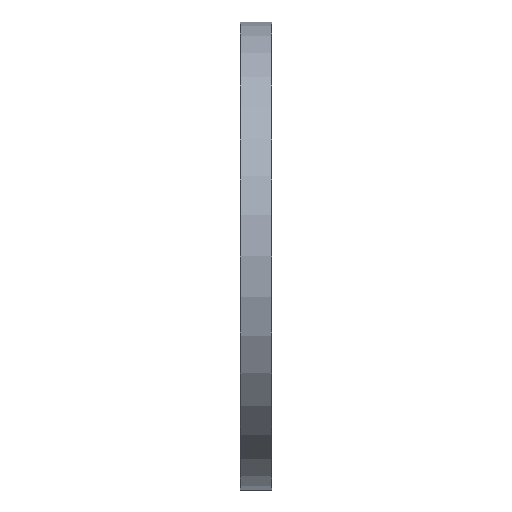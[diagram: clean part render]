
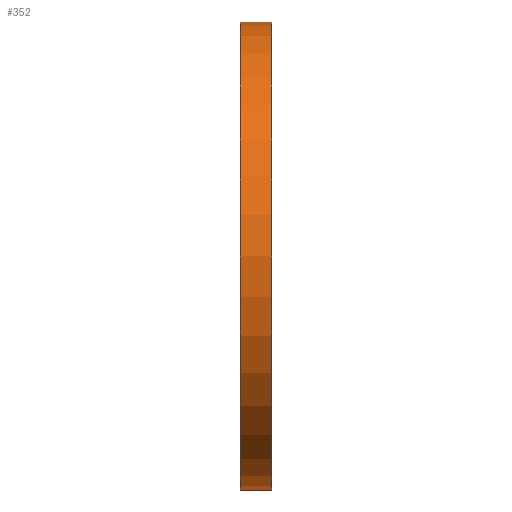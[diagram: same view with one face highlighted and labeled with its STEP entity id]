
A CAD part, left-side view. The second image highlights one B-rep face of the part: STEP entity #352.
In plain terms, the highlighted cylindrical face has radius 22 mm (diameter 44 mm), a partial arc.
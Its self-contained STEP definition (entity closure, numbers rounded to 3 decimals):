
#8 = DIRECTION ( 'NONE',  ( 0., 0., -1. ) ) ;
#15 = DIRECTION ( 'NONE',  ( 0., 0., -1. ) ) ;
#51 = DIRECTION ( 'NONE',  ( 0., 0., -1. ) ) ;
#99 = CYLINDRICAL_SURFACE ( 'NONE', #1307, 22. ) ;
#163 = CARTESIAN_POINT ( 'NONE',  ( 0., 0., -22. ) ) ;
#172 = DIRECTION ( 'NONE',  ( 0., -1., 0. ) ) ;
#296 = EDGE_CURVE ( 'NONE', #1156, #361, #1671, .T. ) ;
#352 = ADVANCED_FACE ( 'NONE', ( #764 ), #99, .T. ) ;
#361 = VERTEX_POINT ( 'NONE', #163 ) ;
#498 = VECTOR ( 'NONE', #1289, 1000. ) ;
#512 = ORIENTED_EDGE ( 'NONE', *, *, #1503, .T. ) ;
#514 = LINE ( 'NONE', #1390, #1121 ) ;
#580 = ORIENTED_EDGE ( 'NONE', *, *, #669, .T. ) ;
#669 = EDGE_CURVE ( 'NONE', #1472, #902, #1169, .T. ) ;
#715 = CARTESIAN_POINT ( 'NONE',  ( 0., 0., 0. ) ) ;
#727 = ORIENTED_EDGE ( 'NONE', *, *, #296, .F. ) ;
#749 = CARTESIAN_POINT ( 'NONE',  ( 0., 3., 22. ) ) ;
#764 = FACE_OUTER_BOUND ( 'NONE', #1760, .T. ) ;
#852 = DIRECTION ( 'NONE',  ( 0., -1., 0. ) ) ;
#857 = EDGE_CURVE ( 'NONE', #1472, #1156, #514, .T. ) ;
#864 = LINE ( 'NONE', #1028, #498 ) ;
#890 = DIRECTION ( 'NONE',  ( 0., -1., 0. ) ) ;
#902 = VERTEX_POINT ( 'NONE', #1577 ) ;
#1028 = CARTESIAN_POINT ( 'NONE',  ( 0., -21., -22. ) ) ;
#1114 = ORIENTED_EDGE ( 'NONE', *, *, #857, .F. ) ;
#1118 = CARTESIAN_POINT ( 'NONE',  ( 0., 0., 22. ) ) ;
#1121 = VECTOR ( 'NONE', #852, 1000. ) ;
#1156 = VERTEX_POINT ( 'NONE', #1118 ) ;
#1169 = CIRCLE ( 'NONE', #1211, 22. ) ;
#1211 = AXIS2_PLACEMENT_3D ( 'NONE', #1606, #890, #51 ) ;
#1268 = CARTESIAN_POINT ( 'NONE',  ( 0., -21., 0. ) ) ;
#1289 = DIRECTION ( 'NONE',  ( 0., -1., 0. ) ) ;
#1307 = AXIS2_PLACEMENT_3D ( 'NONE', #1268, #172, #15 ) ;
#1390 = CARTESIAN_POINT ( 'NONE',  ( 0., -21., 22. ) ) ;
#1472 = VERTEX_POINT ( 'NONE', #749 ) ;
#1503 = EDGE_CURVE ( 'NONE', #902, #361, #864, .T. ) ;
#1538 = DIRECTION ( 'NONE',  ( 0., -1., 0. ) ) ;
#1540 = AXIS2_PLACEMENT_3D ( 'NONE', #715, #1538, #8 ) ;
#1577 = CARTESIAN_POINT ( 'NONE',  ( 0., 3., -22. ) ) ;
#1606 = CARTESIAN_POINT ( 'NONE',  ( 0., 3., 0. ) ) ;
#1671 = CIRCLE ( 'NONE', #1540, 22. ) ;
#1760 = EDGE_LOOP ( 'NONE', ( #1114, #580, #512, #727 ) ) ;
